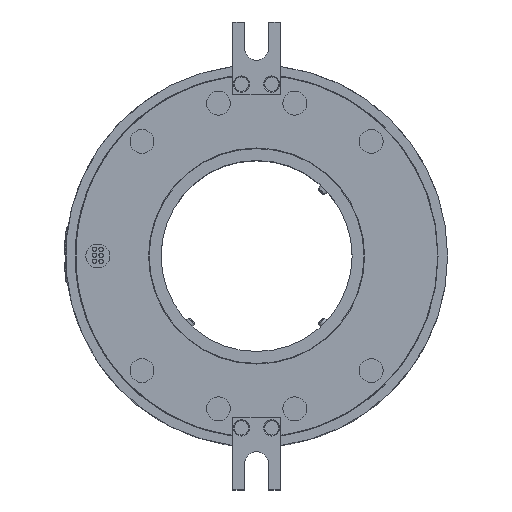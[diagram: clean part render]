
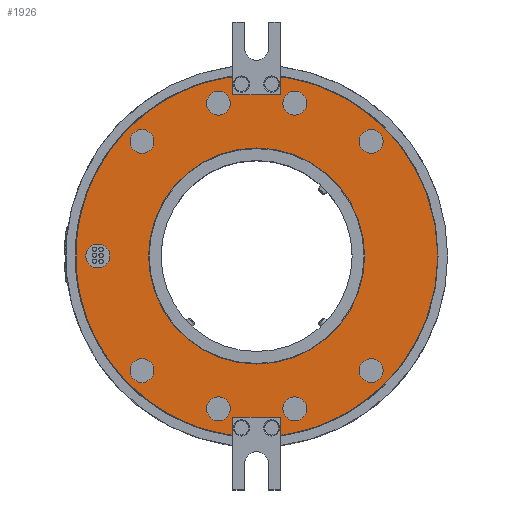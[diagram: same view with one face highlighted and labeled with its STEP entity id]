
A CAD part, top view. The second image highlights one B-rep face of the part: STEP entity #1926.
In plain terms, the highlighted planar face has unit normal (0, 0, 1).
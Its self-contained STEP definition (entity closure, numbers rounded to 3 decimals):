
#178=FACE_BOUND('',#4832,.T.);
#179=FACE_BOUND('',#4833,.T.);
#180=FACE_BOUND('',#4834,.T.);
#181=FACE_BOUND('',#4835,.T.);
#182=FACE_BOUND('',#4836,.T.);
#183=FACE_BOUND('',#4837,.T.);
#184=FACE_BOUND('',#4838,.T.);
#185=FACE_BOUND('',#4839,.T.);
#186=FACE_BOUND('',#4840,.T.);
#187=FACE_BOUND('',#4841,.T.);
#188=FACE_BOUND('',#4842,.T.);
#522=CIRCLE('',#16488,5.);
#523=CIRCLE('',#16489,75.9);
#524=CIRCLE('',#16490,75.9);
#525=CIRCLE('',#16491,45.25);
#526=CIRCLE('',#16492,5.);
#527=CIRCLE('',#16493,5.);
#528=CIRCLE('',#16494,5.);
#529=CIRCLE('',#16495,5.);
#530=CIRCLE('',#16496,5.);
#531=CIRCLE('',#16497,5.);
#532=CIRCLE('',#16498,5.);
#533=CIRCLE('',#16499,5.);
#964=PLANE('',#16500);
#1221=LINE('',#31043,#3213);
#1222=LINE('',#31046,#3214);
#1223=LINE('',#31048,#3215);
#1224=LINE('',#31052,#3216);
#1225=LINE('',#31054,#3217);
#1226=LINE('',#31056,#3218);
#1926=ADVANCED_FACE('',(#178,#179,#180,#181,#182,#183,#184,#185,#186,#187,
#188),#964,.T.);
#3213=VECTOR('',#18050,1.);
#3214=VECTOR('',#18051,1.);
#3215=VECTOR('',#18052,1.);
#3216=VECTOR('',#18055,1.);
#3217=VECTOR('',#18056,1.);
#3218=VECTOR('',#18057,1.);
#4832=EDGE_LOOP('',(#7589));
#4833=EDGE_LOOP('',(#7590,#7591,#7592,#7593,#7594,#7595,#7596,#7597));
#4834=EDGE_LOOP('',(#7598));
#4835=EDGE_LOOP('',(#7599));
#4836=EDGE_LOOP('',(#7600));
#4837=EDGE_LOOP('',(#7601));
#4838=EDGE_LOOP('',(#7602));
#4839=EDGE_LOOP('',(#7603));
#4840=EDGE_LOOP('',(#7604));
#4841=EDGE_LOOP('',(#7605));
#4842=EDGE_LOOP('',(#7606));
#7589=ORIENTED_EDGE('',*,*,#13267,.T.);
#7590=ORIENTED_EDGE('',*,*,#13268,.F.);
#7591=ORIENTED_EDGE('',*,*,#13269,.F.);
#7592=ORIENTED_EDGE('',*,*,#13270,.F.);
#7593=ORIENTED_EDGE('',*,*,#13271,.F.);
#7594=ORIENTED_EDGE('',*,*,#13272,.F.);
#7595=ORIENTED_EDGE('',*,*,#13273,.F.);
#7596=ORIENTED_EDGE('',*,*,#13274,.F.);
#7597=ORIENTED_EDGE('',*,*,#13275,.F.);
#7598=ORIENTED_EDGE('',*,*,#13276,.F.);
#7599=ORIENTED_EDGE('',*,*,#13277,.T.);
#7600=ORIENTED_EDGE('',*,*,#13278,.T.);
#7601=ORIENTED_EDGE('',*,*,#13279,.T.);
#7602=ORIENTED_EDGE('',*,*,#13280,.T.);
#7603=ORIENTED_EDGE('',*,*,#13281,.T.);
#7604=ORIENTED_EDGE('',*,*,#13282,.T.);
#7605=ORIENTED_EDGE('',*,*,#13283,.T.);
#7606=ORIENTED_EDGE('',*,*,#13284,.T.);
#11127=VERTEX_POINT('',#31042);
#11128=VERTEX_POINT('',#31044);
#11129=VERTEX_POINT('',#31045);
#11130=VERTEX_POINT('',#31047);
#11131=VERTEX_POINT('',#31049);
#11132=VERTEX_POINT('',#31051);
#11133=VERTEX_POINT('',#31053);
#11134=VERTEX_POINT('',#31055);
#11135=VERTEX_POINT('',#31057);
#11136=VERTEX_POINT('',#31060);
#11137=VERTEX_POINT('',#31062);
#11138=VERTEX_POINT('',#31064);
#11139=VERTEX_POINT('',#31066);
#11140=VERTEX_POINT('',#31068);
#11141=VERTEX_POINT('',#31070);
#11142=VERTEX_POINT('',#31072);
#11143=VERTEX_POINT('',#31074);
#11144=VERTEX_POINT('',#31076);
#13267=EDGE_CURVE('',#11127,#11127,#522,.T.);
#13268=EDGE_CURVE('',#11128,#11129,#1221,.T.);
#13269=EDGE_CURVE('',#11130,#11128,#1222,.T.);
#13270=EDGE_CURVE('',#11131,#11130,#1223,.T.);
#13271=EDGE_CURVE('',#11132,#11131,#523,.T.);
#13272=EDGE_CURVE('',#11133,#11132,#1224,.T.);
#13273=EDGE_CURVE('',#11134,#11133,#1225,.T.);
#13274=EDGE_CURVE('',#11135,#11134,#1226,.T.);
#13275=EDGE_CURVE('',#11129,#11135,#524,.T.);
#13276=EDGE_CURVE('',#11136,#11136,#525,.T.);
#13277=EDGE_CURVE('',#11137,#11137,#526,.T.);
#13278=EDGE_CURVE('',#11138,#11138,#527,.T.);
#13279=EDGE_CURVE('',#11139,#11139,#528,.T.);
#13280=EDGE_CURVE('',#11140,#11140,#529,.T.);
#13281=EDGE_CURVE('',#11141,#11141,#530,.T.);
#13282=EDGE_CURVE('',#11142,#11142,#531,.T.);
#13283=EDGE_CURVE('',#11143,#11143,#532,.T.);
#13284=EDGE_CURVE('',#11144,#11144,#533,.T.);
#16488=AXIS2_PLACEMENT_3D('',#31041,#18048,#18049);
#16489=AXIS2_PLACEMENT_3D('',#31050,#18053,#18054);
#16490=AXIS2_PLACEMENT_3D('',#31058,#18058,#18059);
#16491=AXIS2_PLACEMENT_3D('',#31059,#18060,#18061);
#16492=AXIS2_PLACEMENT_3D('',#31061,#18062,#18063);
#16493=AXIS2_PLACEMENT_3D('',#31063,#18064,#18065);
#16494=AXIS2_PLACEMENT_3D('',#31065,#18066,#18067);
#16495=AXIS2_PLACEMENT_3D('',#31067,#18068,#18069);
#16496=AXIS2_PLACEMENT_3D('',#31069,#18070,#18071);
#16497=AXIS2_PLACEMENT_3D('',#31071,#18072,#18073);
#16498=AXIS2_PLACEMENT_3D('',#31073,#18074,#18075);
#16499=AXIS2_PLACEMENT_3D('',#31075,#18076,#18077);
#16500=AXIS2_PLACEMENT_3D('',#31077,#18078,#18079);
#18048=DIRECTION('',(0.,0.,-1.));
#18049=DIRECTION('',(-1.,0.,0.));
#18050=DIRECTION('',(0.,1.,0.));
#18051=DIRECTION('',(1.,0.,0.));
#18052=DIRECTION('',(0.,-1.,0.));
#18053=DIRECTION('',(0.,0.,-1.));
#18054=DIRECTION('',(1.,0.,0.));
#18055=DIRECTION('',(0.,-1.,0.));
#18056=DIRECTION('',(-1.,0.,0.));
#18057=DIRECTION('',(0.,1.,0.));
#18058=DIRECTION('',(0.,0.,-1.));
#18059=DIRECTION('',(1.,0.,0.));
#18060=DIRECTION('',(0.,0.,1.));
#18061=DIRECTION('',(1.,0.,0.));
#18062=DIRECTION('',(0.,0.,-1.));
#18063=DIRECTION('',(1.,0.,0.));
#18064=DIRECTION('',(0.,0.,-1.));
#18065=DIRECTION('',(1.,0.,0.));
#18066=DIRECTION('',(0.,0.,-1.));
#18067=DIRECTION('',(1.,0.,0.));
#18068=DIRECTION('',(0.,0.,-1.));
#18069=DIRECTION('',(1.,0.,0.));
#18070=DIRECTION('',(0.,0.,-1.));
#18071=DIRECTION('',(1.,0.,0.));
#18072=DIRECTION('',(0.,0.,-1.));
#18073=DIRECTION('',(1.,0.,0.));
#18074=DIRECTION('',(0.,0.,-1.));
#18075=DIRECTION('',(1.,0.,0.));
#18076=DIRECTION('',(0.,0.,-1.));
#18077=DIRECTION('',(1.,0.,0.));
#18078=DIRECTION('',(0.,0.,1.));
#18079=DIRECTION('',(1.,0.,0.));
#31041=CARTESIAN_POINT('',(-66.5,0.,95.5));
#31042=CARTESIAN_POINT('',(-71.5,0.,95.5));
#31043=CARTESIAN_POINT('',(10.,82.75,95.5));
#31044=CARTESIAN_POINT('',(10.,67.5,95.5));
#31045=CARTESIAN_POINT('',(10.,75.238,95.5));
#31046=CARTESIAN_POINT('',(0.,67.5,95.5));
#31047=CARTESIAN_POINT('',(-10.,67.5,95.5));
#31048=CARTESIAN_POINT('',(-10.,82.75,95.5));
#31049=CARTESIAN_POINT('',(-10.,75.238,95.5));
#31050=CARTESIAN_POINT('',(0.,0.,95.5));
#31051=CARTESIAN_POINT('',(-10.,-75.238,95.5));
#31052=CARTESIAN_POINT('',(-10.,-82.75,95.5));
#31053=CARTESIAN_POINT('',(-10.,-67.5,95.5));
#31054=CARTESIAN_POINT('',(0.,-67.5,95.5));
#31055=CARTESIAN_POINT('',(10.,-67.5,95.5));
#31056=CARTESIAN_POINT('',(10.,-82.75,95.5));
#31057=CARTESIAN_POINT('',(10.,-75.238,95.5));
#31058=CARTESIAN_POINT('',(0.,0.,95.5));
#31059=CARTESIAN_POINT('',(0.,0.,95.5));
#31060=CARTESIAN_POINT('',(45.25,0.,95.5));
#31061=CARTESIAN_POINT('',(-48.,-48.,95.5));
#31062=CARTESIAN_POINT('',(-43.,-48.,95.5));
#31063=CARTESIAN_POINT('',(48.,48.,95.5));
#31064=CARTESIAN_POINT('',(53.,48.,95.5));
#31065=CARTESIAN_POINT('',(-16.,64.,95.5));
#31066=CARTESIAN_POINT('',(-11.,64.,95.5));
#31067=CARTESIAN_POINT('',(16.,-64.,95.5));
#31068=CARTESIAN_POINT('',(21.,-64.,95.5));
#31069=CARTESIAN_POINT('',(-48.,48.,95.5));
#31070=CARTESIAN_POINT('',(-43.,48.,95.5));
#31071=CARTESIAN_POINT('',(16.,64.,95.5));
#31072=CARTESIAN_POINT('',(21.,64.,95.5));
#31073=CARTESIAN_POINT('',(48.,-48.,95.5));
#31074=CARTESIAN_POINT('',(53.,-48.,95.5));
#31075=CARTESIAN_POINT('',(-16.,-64.,95.5));
#31076=CARTESIAN_POINT('',(-11.,-64.,95.5));
#31077=CARTESIAN_POINT('',(0.,0.,95.5));
